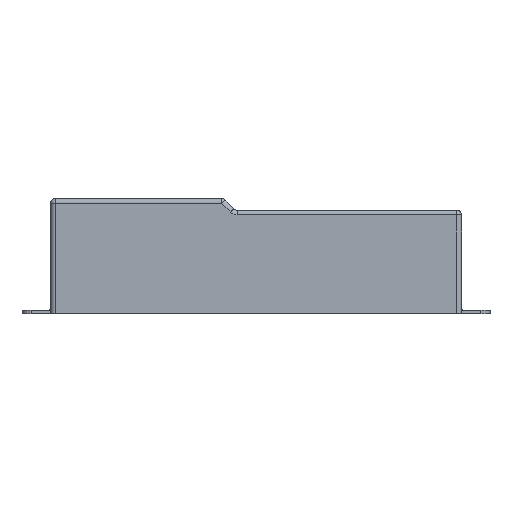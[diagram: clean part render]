
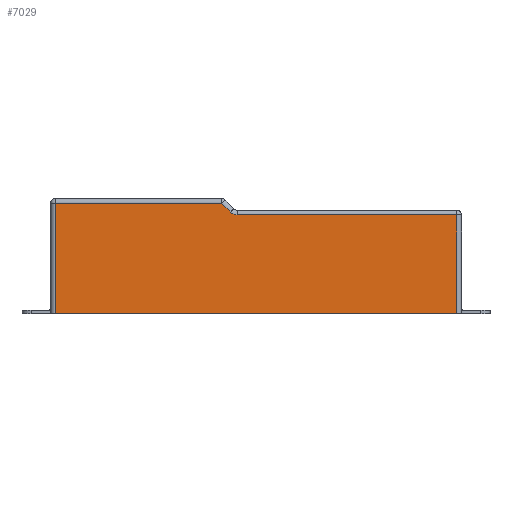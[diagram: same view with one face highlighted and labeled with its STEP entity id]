
A CAD part, left-side view. The second image highlights one B-rep face of the part: STEP entity #7029.
In plain terms, the highlighted planar face has unit normal (-1, 0, 0).
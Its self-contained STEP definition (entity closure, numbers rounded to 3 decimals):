
#938=DIRECTION('',(0.,1.,0.));
#939=VECTOR('',#938,69.464);
#940=CARTESIAN_POINT('',(-6.,-4.502,6.702));
#941=LINE('',#940,#939);
#942=DIRECTION('',(0.,0.,1.));
#943=VECTOR('',#942,31.202);
#944=CARTESIAN_POINT('',(-6.,-4.502,-24.5));
#945=LINE('',#944,#943);
#946=DIRECTION('',(0.,-1.,0.));
#947=VECTOR('',#946,127.);
#948=CARTESIAN_POINT('',(-6.,122.498,-24.5));
#949=LINE('',#948,#947);
#950=DIRECTION('',(0.,0.,-1.));
#951=VECTOR('',#950,34.9);
#952=CARTESIAN_POINT('',(-6.,122.498,10.4));
#953=LINE('',#952,#951);
#954=DIRECTION('',(0.,1.,0.));
#955=VECTOR('',#954,52.595);
#956=CARTESIAN_POINT('',(-6.,69.903,10.4));
#957=LINE('',#956,#955);
#958=DIRECTION('',(0.,0.707,0.707));
#959=VECTOR('',#958,3.987);
#960=CARTESIAN_POINT('',(-6.,67.084,7.581));
#961=LINE('',#960,#959);
#962=CARTESIAN_POINT('',(-6.,64.963,9.702));
#963=DIRECTION('',(1.,0.,0.));
#964=DIRECTION('',(0.,0.,-1.));
#965=AXIS2_PLACEMENT_3D('',#962,#963,#964);
#4541=CARTESIAN_POINT('',(-6.,122.498,-24.5));
#4543=VERTEX_POINT('',#4541);
#4546=CARTESIAN_POINT('',(-6.,-4.502,-24.5));
#4548=VERTEX_POINT('',#4546);
#4573=CARTESIAN_POINT('',(-6.,-4.502,6.702));
#4574=VERTEX_POINT('',#4573);
#4575=CARTESIAN_POINT('',(-6.,64.963,6.702));
#4576=VERTEX_POINT('',#4575);
#4579=CARTESIAN_POINT('',(-6.,67.084,7.581));
#4580=VERTEX_POINT('',#4579);
#4583=CARTESIAN_POINT('',(-6.,69.903,10.4));
#4584=VERTEX_POINT('',#4583);
#4589=CARTESIAN_POINT('',(-6.,122.498,10.4));
#4590=VERTEX_POINT('',#4589);
#7011=CARTESIAN_POINT('',(-6.,0.,0.));
#7012=DIRECTION('',(-1.,0.,0.));
#7013=DIRECTION('',(0.,-1.,0.));
#7014=AXIS2_PLACEMENT_3D('',#7011,#7012,#7013);
#7015=PLANE('',#7014);
#7016=ORIENTED_EDGE('',*,*,#7001,.F.);
#7017=ORIENTED_EDGE('',*,*,#6978,.F.);
#7018=ORIENTED_EDGE('',*,*,#6054,.F.);
#7020=ORIENTED_EDGE('',*,*,#7019,.F.);
#7022=ORIENTED_EDGE('',*,*,#7021,.F.);
#7024=ORIENTED_EDGE('',*,*,#7023,.F.);
#7026=ORIENTED_EDGE('',*,*,#7025,.F.);
#7027=EDGE_LOOP('',(#7016,#7017,#7018,#7020,#7022,#7024,#7026));
#7028=FACE_OUTER_BOUND('',#7027,.F.);
#7029=ADVANCED_FACE('',(#7028),#7015,.T.);
#966=CIRCLE('',#965,3.);
#6054=EDGE_CURVE('',#4543,#4548,#949,.T.);
#6978=EDGE_CURVE('',#4548,#4574,#945,.T.);
#7001=EDGE_CURVE('',#4574,#4576,#941,.T.);
#7019=EDGE_CURVE('',#4590,#4543,#953,.T.);
#7021=EDGE_CURVE('',#4584,#4590,#957,.T.);
#7023=EDGE_CURVE('',#4580,#4584,#961,.T.);
#7025=EDGE_CURVE('',#4576,#4580,#966,.T.);
